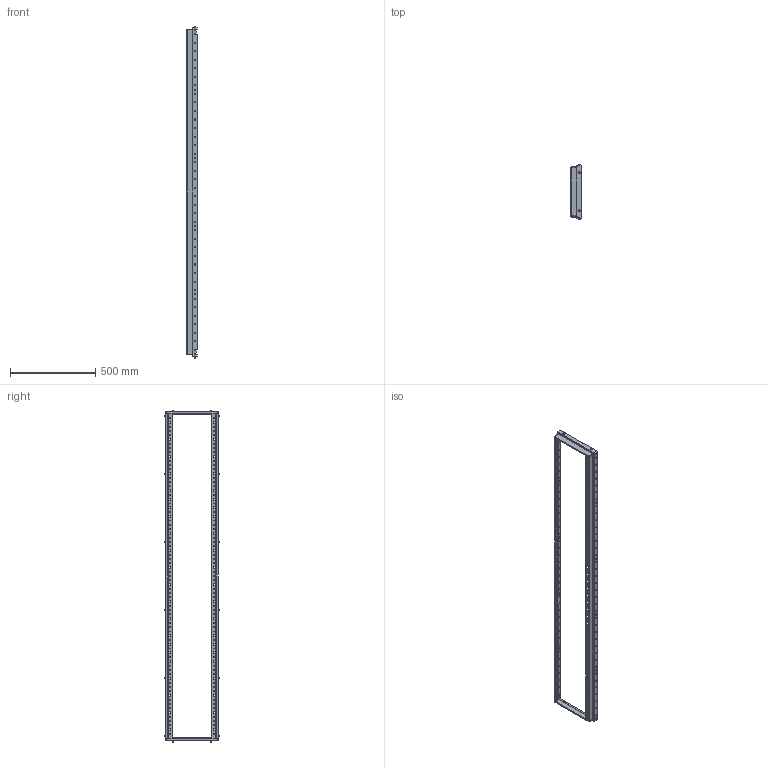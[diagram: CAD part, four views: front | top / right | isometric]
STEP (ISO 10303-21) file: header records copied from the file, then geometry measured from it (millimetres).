
FILE_DESCRIPTION (( 'STEP AP214' ), '1' );
FILE_NAME ('FO-00-UVF-200-040 Ðàìà äëÿ ïëàñòðîíîâ 2000õ400.STEP', '2025-09-25T08:13:56', ( '' ), ( '' ), 'SwSTEP 2.0', 'SolidWorks 2023', '' );
FILE_SCHEMA (( 'AUTOMOTIVE_DESIGN' ));
Length unit declared in the file: millimetre
Products named in the file (1): FO-00-UVF-200-040 Рама для пластронов 2000х400
Bounding box: 60.8 x 325 x 1946 mm (x, y, z)
Volume: 703652.5 mm3; surface area: 833312 mm2
Topology: 1 solids, 1 shells, 2217 faces, 5551 edges, 3504 vertices
Faces by surface type: plane 1110, cylinder 1051, sphere 24, cone 24, torus 8
Entity records: 68525 total; most frequent: CARTESIAN_POINT 14304, ORIENTED_EDGE 11102, DIRECTION 10916, EDGE_CURVE 5551, LINE 3952, VECTOR 3952, VERTEX_POINT 3504, AXIS2_PLACEMENT_3D 3482
